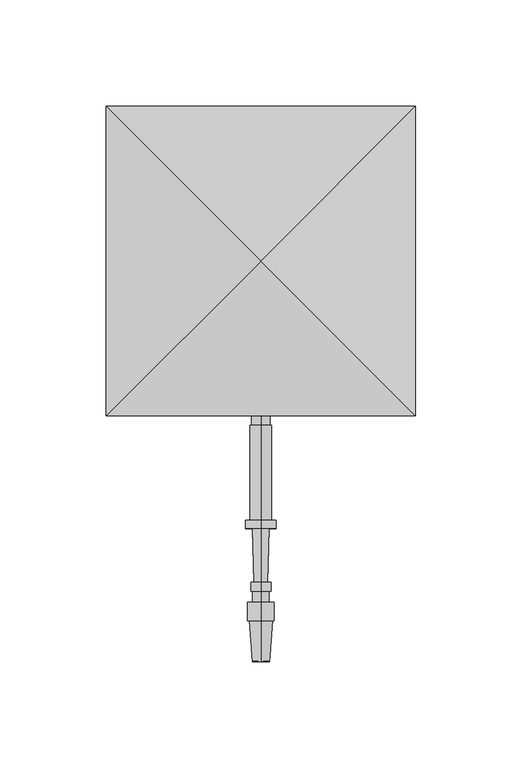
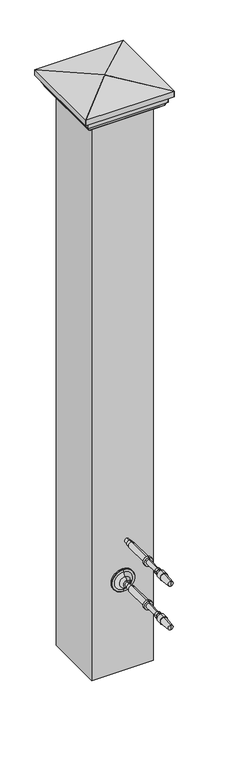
"""IFC4 building model written with IfcOpenShell, lengths in millimetres: railing geometry, RAILEASY CABLE RAILING CORNER TENSIONERS STAIR."""

from ifc_helpers import new_model, si_unit, point, frame, origin, place, context, project, spatial, polyline, circle_curve, ellipse_curve, trimmed, outline, extrude, source, transform, mapped, element, save
from ifc_brep_helpers import plane_surface, cylinder_surface, revolved_surface, advanced_brep


def railing_0d87ca35(model_context):
    return source(origin(), model_context, "Body", "SolidModel", [
        advanced_brep(
        [(4097.4568095, 20251.1146682, 32759.0282881), (4097.4568095, 20251.1146682, 32766.1720381), (4097.4568095, 20251.1146682, 32762.6001631), (4097.4568095, 20126.170779, 32762.6001631), (4097.4568095, 20125.8751146, 32766.6246235), (4097.4568095, 20125.8751146, 32758.5757028), (4097.4568095, 20145.2184786, 32768.045719), (4097.4568095, 20145.2184786, 32757.1546072), (4097.4568095, 20145.2184786, 32768.9386877), (4097.4568095, 20145.2184786, 32756.2616385), (4097.4568095, 20153.8505098, 32768.9386877), (4097.4568095, 20153.8505098, 32756.2616385), (4097.4568095, 20153.8505098, 32766.5574377), (4097.4568095, 20153.8505098, 32758.6428885), (4097.4568095, 20159.2083223, 32766.5574377), (4097.4568095, 20159.2083223, 32758.6428885), (4097.4568095, 20159.2083223, 32767.3511877), (4097.4568095, 20159.2083223, 32757.8491385), (4097.4568095, 20163.2762911, 32767.3511877), (4097.4568095, 20163.2762911, 32757.8491385), (4097.4568095, 20163.3203782, 32765.7643), (4097.4568095, 20163.3203782, 32759.4360262), (4097.4568095, 20188.7105814, 32766.4696944), (4097.4568095, 20188.7105814, 32758.7306319), (4097.4568095, 20188.7105814, 32769.7439131), (4097.4568095, 20188.7105814, 32755.4564131), (4097.4568095, 20192.6793314, 32769.7439131), (4097.4568095, 20192.6793314, 32755.4564131), (4097.4568095, 20192.6793314, 32767.7595381), (4097.4568095, 20192.6793314, 32757.4407881), (4097.4568095, 20237.4269877, 32767.7595381), (4097.4568095, 20237.4269877, 32757.4407881), (4097.4568095, 20237.4269877, 32766.9657881), (4097.4568095, 20237.4269877, 32758.2345381), (4097.4568095, 20243.7769877, 32766.9657881), (4097.4568095, 20243.7769877, 32758.2345381), (4097.4568095, 20243.7769877, 32766.1720381), (4097.4568095, 20243.7769877, 32759.0282881)],
        [
            (0, 1, circle_curve(frame((4097.4568095, 20251.1146682, 32762.6001631), z_axis=(0.0, 1.0, 0.0), x_axis=(0.0, 0.0, 1.0000000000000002)), 3.571875)),
            (1, 2),
            (2, 0),
            (1, 0, circle_curve(frame((4097.4568095, 20251.1146682, 32762.6001631), z_axis=(0.0, 1.0, 0.0), x_axis=(0.0, 0.0, 1.0000000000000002)), 3.571875)),
            (3, 4),
            (4, 5, circle_curve(frame((4097.4568095, 20125.8751146, 32762.6001631), z_axis=(0.0, -1.0, 0.0), x_axis=(0.0, 0.0, 1.0000000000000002)), 4.0244604)),
            (5, 3),
            (5, 4, circle_curve(frame((4097.4568095, 20125.8751146, 32762.6001631), z_axis=(0.0, -1.0, 0.0), x_axis=(0.0, 0.0, 1.0000000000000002)), 4.0244604)),
            (4, 6),
            (6, 7, circle_curve(frame((4097.4568095, 20145.2184786, 32762.6001631), z_axis=(0.0, -1.0, 0.0), x_axis=(0.0, 0.0, 1.0000000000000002)), 5.4455559)),
            (7, 5),
            (7, 6, circle_curve(frame((4097.4568095, 20145.2184786, 32762.6001631), z_axis=(0.0, -1.0, 0.0), x_axis=(0.0, 0.0, 1.0000000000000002)), 5.4455559)),
            (6, 8),
            (8, 9, circle_curve(frame((4097.4568095, 20145.2184786, 32762.6001631), z_axis=(0.0, -1.0, 0.0), x_axis=(0.0, 0.0, 1.0000000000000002)), 6.3385246)),
            (9, 7),
            (9, 8, circle_curve(frame((4097.4568095, 20145.2184786, 32762.6001631), z_axis=(0.0, -1.0, 0.0), x_axis=(0.0, 0.0, 1.0000000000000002)), 6.3385246)),
            (8, 10),
            (10, 11, circle_curve(frame((4097.4568095, 20153.8505098, 32762.6001631), z_axis=(0.0, -1.0, 0.0), x_axis=(0.0, 0.0, 1.0000000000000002)), 6.3385246)),
            (11, 9),
            (11, 10, circle_curve(frame((4097.4568095, 20153.8505098, 32762.6001631), z_axis=(0.0, -1.0, 0.0), x_axis=(0.0, 0.0, 1.0000000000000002)), 6.3385246)),
            (10, 12),
            (12, 13, circle_curve(frame((4097.4568095, 20153.8505098, 32762.6001631), z_axis=(0.0, -1.0, 0.0), x_axis=(0.0, 0.0, 1.0000000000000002)), 3.9572746)),
            (13, 11),
            (13, 12, circle_curve(frame((4097.4568095, 20153.8505098, 32762.6001631), z_axis=(0.0, -1.0, 0.0), x_axis=(0.0, 0.0, 1.0000000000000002)), 3.9572746)),
            (12, 14),
            (14, 15, circle_curve(frame((4097.4568095, 20159.2083223, 32762.6001631), z_axis=(0.0, -1.0, 0.0), x_axis=(0.0, 0.0, 1.0000000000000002)), 3.9572746)),
            (15, 13),
            (15, 14, circle_curve(frame((4097.4568095, 20159.2083223, 32762.6001631), z_axis=(0.0, -1.0, 0.0), x_axis=(0.0, 0.0, 1.0000000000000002)), 3.9572746)),
            (14, 16),
            (16, 17, circle_curve(frame((4097.4568095, 20159.2083223, 32762.6001631), z_axis=(0.0, -1.0, 0.0), x_axis=(0.0, 0.0, 1.0000000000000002)), 4.7510246)),
            (17, 15),
            (17, 16, circle_curve(frame((4097.4568095, 20159.2083223, 32762.6001631), z_axis=(0.0, -1.0, 0.0), x_axis=(0.0, 0.0, 1.0000000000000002)), 4.7510246)),
            (16, 18),
            (18, 19, circle_curve(frame((4097.4568095, 20163.2762911, 32762.6001631), z_axis=(0.0, -1.0, 0.0), x_axis=(0.0, 0.0, 1.0000000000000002)), 4.7510246)),
            (19, 17),
            (19, 18, circle_curve(frame((4097.4568095, 20163.2762911, 32762.6001631), z_axis=(0.0, -1.0, 0.0), x_axis=(0.0, 0.0, 1.0000000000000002)), 4.7510246)),
            (18, 20),
            (20, 21, circle_curve(frame((4097.4568095, 20163.3203782, 32762.6001631), z_axis=(0.0, -1.0, 0.0), x_axis=(0.0, 0.0, 1.0000000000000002)), 3.1641369)),
            (21, 19),
            (21, 20, circle_curve(frame((4097.4568095, 20163.3203782, 32762.6001631), z_axis=(0.0, -1.0, 0.0), x_axis=(0.0, 0.0, 1.0000000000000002)), 3.1641369)),
            (20, 22),
            (22, 23, circle_curve(frame((4097.4568095, 20188.7105814, 32762.6001631), z_axis=(0.0, -1.0, 0.0), x_axis=(0.0, 0.0, 1.0000000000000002)), 3.8695313)),
            (23, 21),
            (23, 22, circle_curve(frame((4097.4568095, 20188.7105814, 32762.6001631), z_axis=(0.0, -1.0, 0.0), x_axis=(0.0, 0.0, 1.0000000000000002)), 3.8695313)),
            (22, 24),
            (24, 25, circle_curve(frame((4097.4568095, 20188.7105814, 32762.6001631), z_axis=(0.0, -1.0, 0.0), x_axis=(0.0, 0.0, 1.0000000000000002)), 7.14375)),
            (25, 23),
            (25, 24, circle_curve(frame((4097.4568095, 20188.7105814, 32762.6001631), z_axis=(0.0, -1.0, 0.0), x_axis=(0.0, 0.0, 1.0000000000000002)), 7.14375)),
            (24, 26),
            (26, 27, circle_curve(frame((4097.4568095, 20192.6793314, 32762.6001631), z_axis=(0.0, -1.0, 0.0), x_axis=(0.0, 0.0, 1.0000000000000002)), 7.14375)),
            (27, 25),
            (27, 26, circle_curve(frame((4097.4568095, 20192.6793314, 32762.6001631), z_axis=(0.0, -1.0, 0.0), x_axis=(0.0, 0.0, 1.0000000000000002)), 7.14375)),
            (26, 28),
            (28, 29, circle_curve(frame((4097.4568095, 20192.6793314, 32762.6001631), z_axis=(0.0, -1.0, 0.0), x_axis=(0.0, 0.0, 1.0000000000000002)), 5.159375)),
            (29, 27),
            (29, 28, circle_curve(frame((4097.4568095, 20192.6793314, 32762.6001631), z_axis=(0.0, -1.0, 0.0), x_axis=(0.0, 0.0, 1.0000000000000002)), 5.159375)),
            (28, 30),
            (30, 31, circle_curve(frame((4097.4568095, 20237.4269877, 32762.6001631), z_axis=(0.0, -1.0, 0.0), x_axis=(0.0, 0.0, 1.0000000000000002)), 5.159375)),
            (31, 29),
            (31, 30, circle_curve(frame((4097.4568095, 20237.4269877, 32762.6001631), z_axis=(0.0, -1.0, 0.0), x_axis=(0.0, 0.0, 1.0000000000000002)), 5.159375)),
            (30, 32),
            (32, 33, circle_curve(frame((4097.4568095, 20237.4269877, 32762.6001631), z_axis=(0.0, -1.0, 0.0), x_axis=(0.0, 0.0, 1.0000000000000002)), 4.365625)),
            (33, 31),
            (33, 32, circle_curve(frame((4097.4568095, 20237.4269877, 32762.6001631), z_axis=(0.0, -1.0, 0.0), x_axis=(0.0, 0.0, 1.0000000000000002)), 4.365625)),
            (32, 34),
            (34, 35, circle_curve(frame((4097.4568095, 20243.7769877, 32762.6001631), z_axis=(0.0, -1.0, 0.0), x_axis=(0.0, 0.0, 1.0000000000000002)), 4.365625)),
            (35, 33),
            (35, 34, circle_curve(frame((4097.4568095, 20243.7769877, 32762.6001631), z_axis=(0.0, -1.0, 0.0), x_axis=(0.0, 0.0, 1.0000000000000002)), 4.365625)),
            (34, 36),
            (36, 37, circle_curve(frame((4097.4568095, 20243.7769877, 32762.6001631), z_axis=(0.0, -1.0, 0.0), x_axis=(0.0, 0.0, 1.0000000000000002)), 3.571875)),
            (37, 35),
            (37, 36, circle_curve(frame((4097.4568095, 20243.7769877, 32762.6001631), z_axis=(0.0, -1.0, 0.0), x_axis=(0.0, 0.0, 1.0000000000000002)), 3.571875)),
            (36, 1),
            (0, 37),
        ],
        [
            plane_surface(frame((4097.4568095, 20251.1146682, 32762.6001631), z_axis=(0.0, 1.0, 0.0), x_axis=(0.0, 0.0, 1.0))),
            revolved_surface(polyline([(4097.4568095, 20125.8751146, 32766.6246235), (4097.4568095, 20126.170779, 32762.6001631)]), (4097.4568095, 20126.170779, 32762.6001631), (0.0, -1.0, 0.0)),
            revolved_surface(polyline([(4097.4568095, 20145.2184786, 32768.045719), (4097.4568095, 20125.8751146, 32766.6246235)]), (4097.4568095, 20126.170779, 32762.6001631), (0.0, -1.0, 0.0)),
            plane_surface(frame((4097.4568095, 20145.2184786, 32762.6001631), z_axis=(0.0, -1.0, 0.0), x_axis=(0.0, 0.0, 1.0))),
            cylinder_surface(frame((4097.4568095, 20126.170779, 32762.6001631), z_axis=(0.0, -1.0, 0.0), x_axis=(0.0, 0.0, 1.0000000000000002)), 6.3385246),
            plane_surface(frame((4097.4568095, 20153.8505098, 32762.6001631), z_axis=(0.0, 1.0, 0.0), x_axis=(0.0, 0.0, 1.0))),
            cylinder_surface(frame((4097.4568095, 20126.170779, 32762.6001631), z_axis=(0.0, -1.0, 0.0), x_axis=(0.0, 0.0, 1.0000000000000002)), 3.9572746),
            plane_surface(frame((4097.4568095, 20159.2083223, 32762.6001631), z_axis=(0.0, -1.0, 0.0), x_axis=(0.0, 0.0, 1.0))),
            cylinder_surface(frame((4097.4568095, 20126.170779, 32762.6001631), z_axis=(0.0, -1.0, 0.0), x_axis=(0.0, 0.0, 1.0000000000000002)), 4.7510246),
            plane_surface(frame((4097.4568095, 20163.3203782, 32762.6001631), z_axis=(0.0, 1.0, 0.0), x_axis=(0.0, 0.0, 1.0))),
            revolved_surface(polyline([(4097.4568095, 20188.7105814, 32766.4696944), (4097.4568095, 20163.3203782, 32765.7643)]), (4097.4568095, 20126.170779, 32762.6001631), (0.0, -1.0, 0.0)),
            plane_surface(frame((4097.4568095, 20188.7105814, 32762.6001631), z_axis=(0.0, -1.0, 0.0), x_axis=(0.0, 0.0, 1.0))),
            cylinder_surface(frame((4097.4568095, 20126.170779, 32762.6001631), z_axis=(0.0, -1.0, 0.0), x_axis=(0.0, 0.0, 1.0000000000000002)), 7.14375),
            plane_surface(frame((4097.4568095, 20192.6793314, 32762.6001631), z_axis=(0.0, 1.0, 0.0), x_axis=(0.0, 0.0, 1.0))),
            cylinder_surface(frame((4097.4568095, 20126.170779, 32762.6001631), z_axis=(0.0, -1.0, 0.0), x_axis=(0.0, 0.0, 1.0000000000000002)), 5.159375),
            plane_surface(frame((4097.4568095, 20237.4269877, 32762.6001631), z_axis=(0.0, 1.0, 0.0), x_axis=(0.0, 0.0, 1.0))),
            cylinder_surface(frame((4097.4568095, 20126.170779, 32762.6001631), z_axis=(0.0, -1.0, 0.0), x_axis=(0.0, 0.0, 1.0000000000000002)), 4.365625),
            plane_surface(frame((4097.4568095, 20243.7769877, 32762.6001631), z_axis=(0.0, 1.0, 0.0), x_axis=(0.0, 0.0, 1.0))),
            cylinder_surface(frame((4097.4568095, 20126.170779, 32762.6001631), z_axis=(0.0, -1.0, 0.0), x_axis=(0.0, 0.0, 1.0000000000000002)), 3.571875),
        ],
        [
            (0, [[1, 2, 3]]),
            (0, [[4, -3, -2]]),
            (1, [[5, 6, 7]]),
            (1, [[-7, 8, -5]]),
            (2, [[-6, 9, 10, 11]]),
            (2, [[-8, -11, 12, -9]]),
            (3, [[-10, 13, 14, 15]]),
            (3, [[-12, -15, 16, -13]]),
            (4, [[-14, 17, 18, 19]]),
            (4, [[-16, -19, 20, -17]]),
            (5, [[-18, 21, 22, 23]]),
            (5, [[-20, -23, 24, -21]]),
            (6, [[-22, 25, 26, 27]]),
            (6, [[-24, -27, 28, -25]]),
            (7, [[-26, 29, 30, 31]]),
            (7, [[-28, -31, 32, -29]]),
            (8, [[-30, 33, 34, 35]]),
            (8, [[-32, -35, 36, -33]]),
            (9, [[-34, 37, 38, 39]]),
            (9, [[-36, -39, 40, -37]]),
            (10, [[-38, 41, 42, 43]]),
            (10, [[-40, -43, 44, -41]]),
            (11, [[-42, 45, 46, 47]]),
            (11, [[-44, -47, 48, -45]]),
            (12, [[-46, 49, 50, 51]]),
            (12, [[-48, -51, 52, -49]]),
            (13, [[-50, 53, 54, 55]]),
            (13, [[-52, -55, 56, -53]]),
            (14, [[-54, 57, 58, 59]]),
            (14, [[-56, -59, 60, -57]]),
            (15, [[-58, 61, 62, 63]]),
            (15, [[-60, -63, 64, -61]]),
            (16, [[-62, 65, 66, 67]]),
            (16, [[-64, -67, 68, -65]]),
            (17, [[-66, 69, 70, 71]]),
            (17, [[-68, -71, 72, -69]]),
            (18, [[-70, 73, -1, 74]]),
            (18, [[-72, -74, -4, -73]]),
        ],
    ),
        advanced_brep(
        [(4097.4568095, 20263.8073048, 32686.4001631), (4097.4568095, 20263.8073048, 32667.3501631), (4097.4568095, 20263.8073048, 32705.4501631), (4097.4568095, 20251.1146682, 32680.8769785), (4097.4568095, 20251.1146682, 32686.4001631), (4097.4568095, 20251.1146682, 32691.9233478), (4097.4568095, 20256.3907646, 32677.2720381), (4097.4568095, 20256.3907646, 32695.5282881), (4097.4568095, 20260.7563896, 32671.6458254), (4097.4568095, 20260.7563896, 32701.1545009), (4097.4568095, 20260.7563896, 32667.7762941), (4097.4568095, 20260.7563896, 32705.0240321), (4097.4568095, 20261.4260548, 32667.3501631), (4097.4568095, 20261.4260548, 32705.4501631)],
        [
            (0, 1),
            (1, 2, circle_curve(frame((4097.4568095, 20263.8073048, 32686.4001631), z_axis=(0.0, 1.0, 0.0), x_axis=(0.0, 0.0, 1.0)), 19.05)),
            (2, 0),
            (2, 1, circle_curve(frame((4097.4568095, 20263.8073048, 32686.4001631), z_axis=(0.0, 1.0, 0.0), x_axis=(0.0, 0.0, 1.0)), 19.05)),
            (3, 4),
            (4, 5),
            (5, 3, circle_curve(frame((4097.4568095, 20251.1146682, 32686.4001631), z_axis=(0.0, -1.0, 0.0), x_axis=(0.0, 0.0, 1.0)), 5.5231846)),
            (3, 5, circle_curve(frame((4097.4568095, 20251.1146682, 32686.4001631), z_axis=(0.0, -1.0, 0.0), x_axis=(0.0, 0.0, 1.0)), 5.5231846)),
            (6, 3, circle_curve(frame((4097.4568095, 20258.7151733, 32686.3374304), z_axis=(-1.0, 0.0, 0.0), x_axis=(0.0, -1.0, 0.0)), 9.3586438)),
            (5, 7, circle_curve(frame((4097.4568095, 20258.7151733, 32686.4628958), z_axis=(-1.0, 0.0, 0.0), x_axis=(0.0, -1.0, 0.0)), 9.3586438)),
            (7, 6, circle_curve(frame((4097.4568095, 20256.3907646, 32686.4001631), z_axis=(0.0, -1.0, 0.0), x_axis=(0.0, 0.0, 1.0)), 9.128125)),
            (6, 7, circle_curve(frame((4097.4568095, 20256.3907646, 32686.4001631), z_axis=(0.0, -1.0, 0.0), x_axis=(0.0, 0.0, 1.0)), 9.128125)),
            (8, 6, circle_curve(frame((4097.4568095, 20254.9481776, 32671.6458254), z_axis=(1.0, 0.0, 0.0), x_axis=(0.0, -1.0, 0.0)), 5.8082121)),
            (7, 9, circle_curve(frame((4097.4568095, 20254.9481776, 32701.1545009), z_axis=(1.0, 0.0, 0.0), x_axis=(0.0, -1.0, 0.0)), 5.8082121)),
            (9, 8, circle_curve(frame((4097.4568095, 20260.7563896, 32686.4001631), z_axis=(0.0, -1.0, 0.0), x_axis=(0.0, 0.0, 1.0)), 14.7543378)),
            (8, 9, circle_curve(frame((4097.4568095, 20260.7563896, 32686.4001631), z_axis=(0.0, -1.0, 0.0), x_axis=(0.0, 0.0, 1.0)), 14.7543378)),
            (10, 8),
            (9, 11),
            (11, 10, circle_curve(frame((4097.4568095, 20260.7563896, 32686.4001631), z_axis=(0.0, -1.0, 0.0), x_axis=(0.0, 0.0, 1.0)), 18.623869)),
            (10, 11, circle_curve(frame((4097.4568095, 20260.7563896, 32686.4001631), z_axis=(0.0, -1.0, 0.0), x_axis=(0.0, 0.0, 1.0)), 18.623869)),
            (12, 10),
            (11, 13),
            (13, 12, circle_curve(frame((4097.4568095, 20261.4260548, 32686.4001631), z_axis=(0.0, -1.0, 0.0), x_axis=(0.0, 0.0, 1.0)), 19.05)),
            (12, 13, circle_curve(frame((4097.4568095, 20261.4260548, 32686.4001631), z_axis=(0.0, -1.0, 0.0), x_axis=(0.0, 0.0, 1.0)), 19.05)),
            (1, 12),
            (13, 2),
        ],
        [
            plane_surface(frame((4097.4568095, 20263.8073048, 32686.4001631), z_axis=(0.0, 1.0, 0.0), x_axis=(0.0, 0.0, 1.0))),
            plane_surface(frame((4097.4568095, 20251.1146682, 32686.4001631), z_axis=(0.0, -1.0, 0.0), x_axis=(0.0, 0.0, 1.0))),
            revolved_surface(trimmed(ellipse_curve(frame((4097.4568095, 20258.7151733, 32686.4628958), z_axis=(-1.0, 0.0, 0.0), x_axis=(0.0, -1.0, 0.0)), 9.3586438, 9.3586438), [point((4097.4568095, 20251.1146682, 32691.9233478))], [point((4097.4568095, 20256.3907646, 32695.5282881))], True, "CARTESIAN"), (4097.4568095, 20263.8073048, 32686.4001631), (0.0, 1.0, 0.0)),
            revolved_surface(trimmed(ellipse_curve(frame((4097.4568095, 20254.9481776, 32701.1545009), z_axis=(1.0, 0.0, 0.0), x_axis=(0.0, -1.0, 0.0)), 5.8082121, 5.8082121), [point((4097.4568095, 20256.3907646, 32695.5282881))], [point((4097.4568095, 20260.7563896, 32701.1545009))], True, "CARTESIAN"), (4097.4568095, 20263.8073048, 32686.4001631), (0.0, 1.0, 0.0)),
            plane_surface(frame((4097.4568095, 20260.7563896, 32686.4001631), z_axis=(0.0, -1.0, 0.0), x_axis=(0.0, 0.0, 1.0))),
            revolved_surface(polyline([(4097.4568095, 20260.7563896, 32705.0240321), (4097.4568095, 20261.4260548, 32705.4501631)]), (4097.4568095, 20263.8073048, 32686.4001631), (0.0, 1.0, 0.0)),
            cylinder_surface(frame((4097.4568095, 20263.8073048, 32686.4001631), z_axis=(0.0, 1.0, 0.0), x_axis=(0.0, 0.0, 1.0)), 19.05),
        ],
        [
            (0, [[1, 2, 3]]),
            (0, [[-3, 4, -1]]),
            (1, [[5, 6, 7]]),
            (1, [[-6, -5, 8]]),
            (2, [[9, -7, 10, 11]]),
            (2, [[-10, -8, -9, 12]]),
            (3, [[13, -11, 14, 15]]),
            (3, [[-14, -12, -13, 16]]),
            (4, [[17, -15, 18, 19]]),
            (4, [[-18, -16, -17, 20]]),
            (5, [[21, -19, 22, 23]]),
            (5, [[-22, -20, -21, 24]]),
            (6, [[25, -23, 26, -2]]),
            (6, [[-26, -24, -25, -4]]),
        ],
    ),
        advanced_brep(
        [(4097.4568095, 20251.1146682, 32682.8282881), (4097.4568095, 20251.1146682, 32689.9720381), (4097.4568095, 20251.1146682, 32686.4001631), (4097.4568095, 20126.170779, 32686.4001631), (4097.4568095, 20125.8751146, 32690.4246235), (4097.4568095, 20125.8751146, 32682.3757028), (4097.4568095, 20145.2184786, 32691.845719), (4097.4568095, 20145.2184786, 32680.9546072), (4097.4568095, 20145.2184786, 32692.7386877), (4097.4568095, 20145.2184786, 32680.0616385), (4097.4568095, 20153.8505098, 32692.7386877), (4097.4568095, 20153.8505098, 32680.0616385), (4097.4568095, 20153.8505098, 32690.3574377), (4097.4568095, 20153.8505098, 32682.4428885), (4097.4568095, 20159.2083223, 32690.3574377), (4097.4568095, 20159.2083223, 32682.4428885), (4097.4568095, 20159.2083223, 32691.1511877), (4097.4568095, 20159.2083223, 32681.6491385), (4097.4568095, 20163.2762911, 32691.1511877), (4097.4568095, 20163.2762911, 32681.6491385), (4097.4568095, 20163.3203782, 32689.5643), (4097.4568095, 20163.3203782, 32683.2360262), (4097.4568095, 20188.7105814, 32690.2696944), (4097.4568095, 20188.7105814, 32682.5306319), (4097.4568095, 20188.7105814, 32693.5439131), (4097.4568095, 20188.7105814, 32679.2564131), (4097.4568095, 20192.6793314, 32693.5439131), (4097.4568095, 20192.6793314, 32679.2564131), (4097.4568095, 20192.6793314, 32691.5595381), (4097.4568095, 20192.6793314, 32681.2407881), (4097.4568095, 20237.4269877, 32691.5595381), (4097.4568095, 20237.4269877, 32681.2407881), (4097.4568095, 20237.4269877, 32690.7657881), (4097.4568095, 20237.4269877, 32682.0345381), (4097.4568095, 20243.7769877, 32690.7657881), (4097.4568095, 20243.7769877, 32682.0345381), (4097.4568095, 20243.7769877, 32689.9720381), (4097.4568095, 20243.7769877, 32682.8282881)],
        [
            (0, 1, circle_curve(frame((4097.4568095, 20251.1146682, 32686.4001631), z_axis=(0.0, 1.0, 0.0), x_axis=(0.0, 0.0, 1.0000000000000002)), 3.571875)),
            (1, 2),
            (2, 0),
            (1, 0, circle_curve(frame((4097.4568095, 20251.1146682, 32686.4001631), z_axis=(0.0, 1.0, 0.0), x_axis=(0.0, 0.0, 1.0000000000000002)), 3.571875)),
            (3, 4),
            (4, 5, circle_curve(frame((4097.4568095, 20125.8751146, 32686.4001631), z_axis=(0.0, -1.0, 0.0), x_axis=(0.0, 0.0, 1.0000000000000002)), 4.0244604)),
            (5, 3),
            (5, 4, circle_curve(frame((4097.4568095, 20125.8751146, 32686.4001631), z_axis=(0.0, -1.0, 0.0), x_axis=(0.0, 0.0, 1.0000000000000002)), 4.0244604)),
            (4, 6),
            (6, 7, circle_curve(frame((4097.4568095, 20145.2184786, 32686.4001631), z_axis=(0.0, -1.0, 0.0), x_axis=(0.0, 0.0, 1.0000000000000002)), 5.4455559)),
            (7, 5),
            (7, 6, circle_curve(frame((4097.4568095, 20145.2184786, 32686.4001631), z_axis=(0.0, -1.0, 0.0), x_axis=(0.0, 0.0, 1.0000000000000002)), 5.4455559)),
            (6, 8),
            (8, 9, circle_curve(frame((4097.4568095, 20145.2184786, 32686.4001631), z_axis=(0.0, -1.0, 0.0), x_axis=(0.0, 0.0, 1.0000000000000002)), 6.3385246)),
            (9, 7),
            (9, 8, circle_curve(frame((4097.4568095, 20145.2184786, 32686.4001631), z_axis=(0.0, -1.0, 0.0), x_axis=(0.0, 0.0, 1.0000000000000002)), 6.3385246)),
            (8, 10),
            (10, 11, circle_curve(frame((4097.4568095, 20153.8505098, 32686.4001631), z_axis=(0.0, -1.0, 0.0), x_axis=(0.0, 0.0, 1.0000000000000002)), 6.3385246)),
            (11, 9),
            (11, 10, circle_curve(frame((4097.4568095, 20153.8505098, 32686.4001631), z_axis=(0.0, -1.0, 0.0), x_axis=(0.0, 0.0, 1.0000000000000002)), 6.3385246)),
            (10, 12),
            (12, 13, circle_curve(frame((4097.4568095, 20153.8505098, 32686.4001631), z_axis=(0.0, -1.0, 0.0), x_axis=(0.0, 0.0, 1.0000000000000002)), 3.9572746)),
            (13, 11),
            (13, 12, circle_curve(frame((4097.4568095, 20153.8505098, 32686.4001631), z_axis=(0.0, -1.0, 0.0), x_axis=(0.0, 0.0, 1.0000000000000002)), 3.9572746)),
            (12, 14),
            (14, 15, circle_curve(frame((4097.4568095, 20159.2083223, 32686.4001631), z_axis=(0.0, -1.0, 0.0), x_axis=(0.0, 0.0, 1.0000000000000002)), 3.9572746)),
            (15, 13),
            (15, 14, circle_curve(frame((4097.4568095, 20159.2083223, 32686.4001631), z_axis=(0.0, -1.0, 0.0), x_axis=(0.0, 0.0, 1.0000000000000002)), 3.9572746)),
            (14, 16),
            (16, 17, circle_curve(frame((4097.4568095, 20159.2083223, 32686.4001631), z_axis=(0.0, -1.0, 0.0), x_axis=(0.0, 0.0, 1.0000000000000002)), 4.7510246)),
            (17, 15),
            (17, 16, circle_curve(frame((4097.4568095, 20159.2083223, 32686.4001631), z_axis=(0.0, -1.0, 0.0), x_axis=(0.0, 0.0, 1.0000000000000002)), 4.7510246)),
            (16, 18),
            (18, 19, circle_curve(frame((4097.4568095, 20163.2762911, 32686.4001631), z_axis=(0.0, -1.0, 0.0), x_axis=(0.0, 0.0, 1.0000000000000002)), 4.7510246)),
            (19, 17),
            (19, 18, circle_curve(frame((4097.4568095, 20163.2762911, 32686.4001631), z_axis=(0.0, -1.0, 0.0), x_axis=(0.0, 0.0, 1.0000000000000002)), 4.7510246)),
            (18, 20),
            (20, 21, circle_curve(frame((4097.4568095, 20163.3203782, 32686.4001631), z_axis=(0.0, -1.0, 0.0), x_axis=(0.0, 0.0, 1.0000000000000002)), 3.1641369)),
            (21, 19),
            (21, 20, circle_curve(frame((4097.4568095, 20163.3203782, 32686.4001631), z_axis=(0.0, -1.0, 0.0), x_axis=(0.0, 0.0, 1.0000000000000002)), 3.1641369)),
            (20, 22),
            (22, 23, circle_curve(frame((4097.4568095, 20188.7105814, 32686.4001631), z_axis=(0.0, -1.0, 0.0), x_axis=(0.0, 0.0, 1.0000000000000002)), 3.8695313)),
            (23, 21),
            (23, 22, circle_curve(frame((4097.4568095, 20188.7105814, 32686.4001631), z_axis=(0.0, -1.0, 0.0), x_axis=(0.0, 0.0, 1.0000000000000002)), 3.8695313)),
            (22, 24),
            (24, 25, circle_curve(frame((4097.4568095, 20188.7105814, 32686.4001631), z_axis=(0.0, -1.0, 0.0), x_axis=(0.0, 0.0, 1.0000000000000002)), 7.14375)),
            (25, 23),
            (25, 24, circle_curve(frame((4097.4568095, 20188.7105814, 32686.4001631), z_axis=(0.0, -1.0, 0.0), x_axis=(0.0, 0.0, 1.0000000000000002)), 7.14375)),
            (24, 26),
            (26, 27, circle_curve(frame((4097.4568095, 20192.6793314, 32686.4001631), z_axis=(0.0, -1.0, 0.0), x_axis=(0.0, 0.0, 1.0000000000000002)), 7.14375)),
            (27, 25),
            (27, 26, circle_curve(frame((4097.4568095, 20192.6793314, 32686.4001631), z_axis=(0.0, -1.0, 0.0), x_axis=(0.0, 0.0, 1.0000000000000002)), 7.14375)),
            (26, 28),
            (28, 29, circle_curve(frame((4097.4568095, 20192.6793314, 32686.4001631), z_axis=(0.0, -1.0, 0.0), x_axis=(0.0, 0.0, 1.0000000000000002)), 5.159375)),
            (29, 27),
            (29, 28, circle_curve(frame((4097.4568095, 20192.6793314, 32686.4001631), z_axis=(0.0, -1.0, 0.0), x_axis=(0.0, 0.0, 1.0000000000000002)), 5.159375)),
            (28, 30),
            (30, 31, circle_curve(frame((4097.4568095, 20237.4269877, 32686.4001631), z_axis=(0.0, -1.0, 0.0), x_axis=(0.0, 0.0, 1.0000000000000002)), 5.159375)),
            (31, 29),
            (31, 30, circle_curve(frame((4097.4568095, 20237.4269877, 32686.4001631), z_axis=(0.0, -1.0, 0.0), x_axis=(0.0, 0.0, 1.0000000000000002)), 5.159375)),
            (30, 32),
            (32, 33, circle_curve(frame((4097.4568095, 20237.4269877, 32686.4001631), z_axis=(0.0, -1.0, 0.0), x_axis=(0.0, 0.0, 1.0000000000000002)), 4.365625)),
            (33, 31),
            (33, 32, circle_curve(frame((4097.4568095, 20237.4269877, 32686.4001631), z_axis=(0.0, -1.0, 0.0), x_axis=(0.0, 0.0, 1.0000000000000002)), 4.365625)),
            (32, 34),
            (34, 35, circle_curve(frame((4097.4568095, 20243.7769877, 32686.4001631), z_axis=(0.0, -1.0, 0.0), x_axis=(0.0, 0.0, 1.0000000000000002)), 4.365625)),
            (35, 33),
            (35, 34, circle_curve(frame((4097.4568095, 20243.7769877, 32686.4001631), z_axis=(0.0, -1.0, 0.0), x_axis=(0.0, 0.0, 1.0000000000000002)), 4.365625)),
            (34, 36),
            (36, 37, circle_curve(frame((4097.4568095, 20243.7769877, 32686.4001631), z_axis=(0.0, -1.0, 0.0), x_axis=(0.0, 0.0, 1.0000000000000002)), 3.571875)),
            (37, 35),
            (37, 36, circle_curve(frame((4097.4568095, 20243.7769877, 32686.4001631), z_axis=(0.0, -1.0, 0.0), x_axis=(0.0, 0.0, 1.0000000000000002)), 3.571875)),
            (36, 1),
            (0, 37),
        ],
        [
            plane_surface(frame((4097.4568095, 20251.1146682, 32686.4001631), z_axis=(0.0, 1.0, 0.0), x_axis=(0.0, 0.0, 1.0))),
            revolved_surface(polyline([(4097.4568095, 20125.8751146, 32690.4246235), (4097.4568095, 20126.170779, 32686.4001631)]), (4097.4568095, 20126.170779, 32686.4001631), (0.0, -1.0, 0.0)),
            revolved_surface(polyline([(4097.4568095, 20145.2184786, 32691.845719), (4097.4568095, 20125.8751146, 32690.4246235)]), (4097.4568095, 20126.170779, 32686.4001631), (0.0, -1.0, 0.0)),
            plane_surface(frame((4097.4568095, 20145.2184786, 32686.4001631), z_axis=(0.0, -1.0, 0.0), x_axis=(0.0, 0.0, 1.0))),
            cylinder_surface(frame((4097.4568095, 20126.170779, 32686.4001631), z_axis=(0.0, -1.0, 0.0), x_axis=(0.0, 0.0, 1.0000000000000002)), 6.3385246),
            plane_surface(frame((4097.4568095, 20153.8505098, 32686.4001631), z_axis=(0.0, 1.0, 0.0), x_axis=(0.0, 0.0, 1.0))),
            cylinder_surface(frame((4097.4568095, 20126.170779, 32686.4001631), z_axis=(0.0, -1.0, 0.0), x_axis=(0.0, 0.0, 1.0000000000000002)), 3.9572746),
            plane_surface(frame((4097.4568095, 20159.2083223, 32686.4001631), z_axis=(0.0, -1.0, 0.0), x_axis=(0.0, 0.0, 1.0))),
            cylinder_surface(frame((4097.4568095, 20126.170779, 32686.4001631), z_axis=(0.0, -1.0, 0.0), x_axis=(0.0, 0.0, 1.0000000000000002)), 4.7510246),
            plane_surface(frame((4097.4568095, 20163.3203782, 32686.4001631), z_axis=(0.0, 1.0, 0.0), x_axis=(0.0, 0.0, 1.0))),
            revolved_surface(polyline([(4097.4568095, 20188.7105814, 32690.2696944), (4097.4568095, 20163.3203782, 32689.5643)]), (4097.4568095, 20126.170779, 32686.4001631), (0.0, -1.0, 0.0)),
            plane_surface(frame((4097.4568095, 20188.7105814, 32686.4001631), z_axis=(0.0, -1.0, 0.0), x_axis=(0.0, 0.0, 1.0))),
            cylinder_surface(frame((4097.4568095, 20126.170779, 32686.4001631), z_axis=(0.0, -1.0, 0.0), x_axis=(0.0, 0.0, 1.0000000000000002)), 7.14375),
            plane_surface(frame((4097.4568095, 20192.6793314, 32686.4001631), z_axis=(0.0, 1.0, 0.0), x_axis=(0.0, 0.0, 1.0))),
            cylinder_surface(frame((4097.4568095, 20126.170779, 32686.4001631), z_axis=(0.0, -1.0, 0.0), x_axis=(0.0, 0.0, 1.0000000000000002)), 5.159375),
            plane_surface(frame((4097.4568095, 20237.4269877, 32686.4001631), z_axis=(0.0, 1.0, 0.0), x_axis=(0.0, 0.0, 1.0))),
            cylinder_surface(frame((4097.4568095, 20126.170779, 32686.4001631), z_axis=(0.0, -1.0, 0.0), x_axis=(0.0, 0.0, 1.0000000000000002)), 4.365625),
            plane_surface(frame((4097.4568095, 20243.7769877, 32686.4001631), z_axis=(0.0, 1.0, 0.0), x_axis=(0.0, 0.0, 1.0))),
            cylinder_surface(frame((4097.4568095, 20126.170779, 32686.4001631), z_axis=(0.0, -1.0, 0.0), x_axis=(0.0, 0.0, 1.0000000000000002)), 3.571875),
        ],
        [
            (0, [[1, 2, 3]]),
            (0, [[4, -3, -2]]),
            (1, [[5, 6, 7]]),
            (1, [[-7, 8, -5]]),
            (2, [[-6, 9, 10, 11]]),
            (2, [[-8, -11, 12, -9]]),
            (3, [[-10, 13, 14, 15]]),
            (3, [[-12, -15, 16, -13]]),
            (4, [[-14, 17, 18, 19]]),
            (4, [[-16, -19, 20, -17]]),
            (5, [[-18, 21, 22, 23]]),
            (5, [[-20, -23, 24, -21]]),
            (6, [[-22, 25, 26, 27]]),
            (6, [[-24, -27, 28, -25]]),
            (7, [[-26, 29, 30, 31]]),
            (7, [[-28, -31, 32, -29]]),
            (8, [[-30, 33, 34, 35]]),
            (8, [[-32, -35, 36, -33]]),
            (9, [[-34, 37, 38, 39]]),
            (9, [[-36, -39, 40, -37]]),
            (10, [[-38, 41, 42, 43]]),
            (10, [[-40, -43, 44, -41]]),
            (11, [[-42, 45, 46, 47]]),
            (11, [[-44, -47, 48, -45]]),
            (12, [[-46, 49, 50, 51]]),
            (12, [[-48, -51, 52, -49]]),
            (13, [[-50, 53, 54, 55]]),
            (13, [[-52, -55, 56, -53]]),
            (14, [[-54, 57, 58, 59]]),
            (14, [[-56, -59, 60, -57]]),
            (15, [[-58, 61, 62, 63]]),
            (15, [[-60, -63, 64, -61]]),
            (16, [[-62, 65, 66, 67]]),
            (16, [[-64, -67, 68, -65]]),
            (17, [[-66, 69, 70, 71]]),
            (17, [[-68, -71, 72, -69]]),
            (18, [[-70, 73, -1, 74]]),
            (18, [[-72, -74, -4, -73]]),
        ],
    ),
        extrude(outline(polyline([(4046.6568095, 20365.424604), (4148.2568095, 20365.424604), (4148.2568095, 20263.824604), (4046.6568095, 20263.824604), (4046.6568095, 20365.424604)])), frame((0.0, 0.0, 32527.3789062), z_axis=(0.0, 0.0, 1.0), x_axis=(1.0, 0.0, 0.0)), (0.0, 0.0, 1.0), 965.2),
        advanced_brep(
        [(4170.4818095, 20387.649604, 33527.5039062), (4097.4568095, 20314.624604, 33537.0289063), (4170.4818095, 20241.599604, 33527.5039062), (4170.4818095, 20387.649604, 33517.9789062), (4170.4818095, 20241.599604, 33517.9789062), (4164.1318095, 20381.299604, 33517.9789062), (4164.1318095, 20247.949604, 33517.9789062), (4164.1318095, 20381.299604, 33506.8203026), (4164.1318095, 20247.949604, 33506.8203026), (4160.4607158, 20377.6285103, 33500.5164062), (4160.4607158, 20251.6206978, 33500.5164062), (4157.2857158, 20374.4535103, 33500.5164062), (4157.2857158, 20254.7956978, 33500.5164062), (4150.9357158, 20368.1035103, 33494.1664062), (4150.9357158, 20261.1456978, 33494.1664062), (4150.9357158, 20368.1035103, 33492.5789063), (4150.9357158, 20261.1456978, 33492.5789063), (4097.4568095, 20314.624604, 33492.5789063)],
        [
            (0, 1),
            (1, 2),
            (2, 0),
            (3, 0),
            (2, 4),
            (4, 3),
            (5, 3),
            (4, 6),
            (6, 5),
            (7, 5),
            (6, 8),
            (8, 7),
            (9, 7, ellipse_curve(frame((4173.1607158, 20390.3285103, 33497.3414063), z_axis=(-0.7071067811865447, 0.7071067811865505, 0.0), x_axis=(0.7071067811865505, 0.7071067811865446, 0.0)), 18.5132723, 13.0908604)),
            (8, 10, ellipse_curve(frame((4173.1607158, 20238.9206978, 33497.3414063), z_axis=(-0.7071067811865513, -0.7071067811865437, 0.0), x_axis=(-0.7071067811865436, 0.7071067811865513, 0.0)), 18.5132723, 13.0908604)),
            (10, 9),
            (11, 9),
            (10, 12),
            (12, 11),
            (13, 11, ellipse_curve(frame((4150.9357158, 20368.1035103, 33500.5164062), z_axis=(0.7071067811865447, -0.7071067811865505, 0.0), x_axis=(-0.7071067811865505, -0.7071067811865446, 0.0)), 8.9802561, 6.35)),
            (12, 14, ellipse_curve(frame((4150.9357158, 20261.1456978, 33500.5164062), z_axis=(0.7071067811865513, 0.7071067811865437, 0.0), x_axis=(0.7071067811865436, -0.7071067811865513, 0.0)), 8.9802561, 6.35)),
            (14, 13),
            (15, 13),
            (14, 16),
            (16, 15),
            (17, 15),
            (16, 17),
            (17, 1),
        ],
        [
            plane_surface(frame((4170.4818095, 20197.4228953, 33527.5039062), z_axis=(0.12933918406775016, 0.0, 0.9916004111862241), x_axis=(0.0, 1.0, 0.0))),
            plane_surface(frame((4170.4818095, 20197.4228953, 33517.9789062), z_axis=(1.0, 0.0, 0.0), x_axis=(0.0, 1.0, 0.0))),
            plane_surface(frame((4164.1318095, 20197.4228953, 33517.9789062), z_axis=(0.0, 0.0, -1.0), x_axis=(0.0, 1.0, 0.0))),
            plane_surface(frame((4164.1318095, 20197.4228953, 33506.8203026), z_axis=(1.0, 0.0, 0.0), x_axis=(0.0, 1.0, 0.0))),
            revolved_surface(polyline([(4160.0698554, 20403.419370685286, 33497.3414063), (4160.0698554, 20225.829837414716, 33497.3414063)]), (4173.1607158, 20423.9181834, 33497.3414063), (0.0, 1.0, 0.0)),
            plane_surface(frame((4157.2857158, 20197.4228953, 33500.5164062), z_axis=(0.0, 0.0, -1.0), x_axis=(0.0, 1.0, 0.0))),
            cylinder_surface(frame((4150.9357158, 20423.9181834, 33500.5164062), z_axis=(0.0, -1.0, 0.0), x_axis=(-1.0, 0.0, 0.0)), 6.35),
            plane_surface(frame((4150.9357158, 20197.4228953, 33492.5789063), z_axis=(1.0, 0.0, 0.0), x_axis=(0.0, 1.0, 0.0))),
            plane_surface(frame((4097.4568095, 20197.4228953, 33492.5789063), z_axis=(0.0, 0.0, -1.0), x_axis=(0.0, 1.0, 0.0))),
            plane_surface(frame((4097.4568095, 20314.624604, 33721.1789063), z_axis=(-0.7071067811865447, 0.7071067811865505, 0.0), x_axis=(0.0, 0.0, -1.0))),
            plane_surface(frame((4230.8068095, 20181.274604, 33721.1789063), z_axis=(-0.7071067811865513, -0.7071067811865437, 0.0), x_axis=(0.0, 0.0, -1.0))),
        ],
        [
            (0, [[1, 2, 3]]),
            (1, [[4, -3, 5, 6]]),
            (2, [[7, -6, 8, 9]]),
            (3, [[10, -9, 11, 12]]),
            (4, [[13, -12, 14, 15]]),
            (5, [[16, -15, 17, 18]]),
            (6, [[19, -18, 20, 21]]),
            (7, [[22, -21, 23, 24]]),
            (8, [[25, -24, 26]]),
            (9, [[-1, -4, -7, -10, -13, -16, -19, -22, -25, 27]]),
            (10, [[-2, -27, -26, -23, -20, -17, -14, -11, -8, -5]]),
        ],
    ),
        advanced_brep(
        [(4097.4568095, 20314.624604, 33537.0289063), (4024.4318095, 20387.649604, 33527.5039062), (4024.4318095, 20241.599604, 33527.5039062), (4024.4318095, 20387.649604, 33517.9789062), (4024.4318095, 20241.599604, 33517.9789062), (4030.7818095, 20381.299604, 33517.9789062), (4030.7818095, 20247.949604, 33517.9789062), (4030.7818095, 20381.299604, 33506.8203026), (4030.7818095, 20247.949604, 33506.8203026), (4034.4529033, 20377.6285103, 33500.5164062), (4034.4529033, 20251.6206978, 33500.5164062), (4037.6279033, 20374.4535103, 33500.5164062), (4037.6279033, 20254.7956978, 33500.5164062), (4043.9779033, 20368.1035103, 33494.1664062), (4043.9779033, 20261.1456978, 33494.1664062), (4043.9779033, 20368.1035103, 33492.5789063), (4043.9779033, 20261.1456978, 33492.5789063), (4097.4568095, 20314.624604, 33492.5789063)],
        [
            (0, 1),
            (1, 2),
            (2, 0),
            (1, 3),
            (3, 4),
            (4, 2),
            (3, 5),
            (5, 6),
            (6, 4),
            (5, 7),
            (7, 8),
            (8, 6),
            (7, 9, ellipse_curve(frame((4021.7529033, 20390.3285103, 33497.3414063), z_axis=(0.7071067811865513, 0.7071067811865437, 0.0), x_axis=(-0.7071067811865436, 0.7071067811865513, 0.0)), 18.5132723, 13.0908604)),
            (9, 10),
            (10, 8, ellipse_curve(frame((4021.7529033, 20238.9206978, 33497.3414063), z_axis=(0.7071067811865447, -0.7071067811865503, 0.0), x_axis=(0.7071067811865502, 0.7071067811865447, 0.0)), 18.5132723, 13.0908604)),
            (9, 11),
            (11, 12),
            (12, 10),
            (11, 13, ellipse_curve(frame((4043.9779033, 20368.1035103, 33500.5164062), z_axis=(-0.7071067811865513, -0.7071067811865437, 0.0), x_axis=(0.7071067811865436, -0.7071067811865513, 0.0)), 8.9802561, 6.35)),
            (13, 14),
            (14, 12, ellipse_curve(frame((4043.9779033, 20261.1456978, 33500.5164062), z_axis=(-0.7071067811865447, 0.7071067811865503, 0.0), x_axis=(-0.7071067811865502, -0.7071067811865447, 0.0)), 8.9802561, 6.35)),
            (13, 15),
            (15, 16),
            (16, 14),
            (15, 17),
            (17, 16),
            (0, 17),
        ],
        [
            plane_surface(frame((4097.4568095, 20197.4228953, 33537.0289063), z_axis=(-0.12933918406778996, 0.0, 0.9916004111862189), x_axis=(0.0, 1.0, 0.0))),
            plane_surface(frame((4024.4318095, 20197.4228953, 33527.5039062), z_axis=(-1.0, 0.0, 0.0), x_axis=(0.0, 1.0, 0.0))),
            plane_surface(frame((4024.4318095, 20197.4228953, 33517.9789062), z_axis=(0.0, 0.0, -1.0), x_axis=(0.0, 1.0, 0.0))),
            plane_surface(frame((4030.7818095, 20197.4228953, 33517.9789062), z_axis=(-1.0, 0.0, 0.0), x_axis=(0.0, 1.0, 0.0))),
            revolved_surface(polyline([(4034.8437637, 20403.419370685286, 33497.3414063), (4034.8437637, 20225.829837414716, 33497.3414063)]), (4021.7529033, 20423.9181834, 33497.3414063), (0.0, 1.0, 0.0)),
            plane_surface(frame((4034.4529033, 20197.4228953, 33500.5164062), z_axis=(0.0, 0.0, -1.0), x_axis=(0.0, 1.0, 0.0))),
            cylinder_surface(frame((4043.9779033, 20423.9181834, 33500.5164062), z_axis=(0.0, -1.0, 0.0), x_axis=(1.0, 0.0, 0.0)), 6.35),
            plane_surface(frame((4043.9779033, 20197.4228953, 33494.1664062), z_axis=(-1.0, 0.0, 0.0), x_axis=(0.0, 1.0, 0.0))),
            plane_surface(frame((4043.9779033, 20197.4228953, 33492.5789063), z_axis=(0.0, 0.0, -1.0), x_axis=(0.0, 1.0, 0.0))),
            plane_surface(frame((3988.1632302, 20423.9181834, 33721.1789063), z_axis=(0.7071067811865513, 0.7071067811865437, 0.0), x_axis=(0.0, 0.0, -1.0))),
            plane_surface(frame((4097.4568095, 20314.624604, 33721.1789063), z_axis=(0.7071067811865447, -0.7071067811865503, 0.0), x_axis=(0.0, 0.0, -1.0))),
        ],
        [
            (0, [[1, 2, 3]]),
            (1, [[4, 5, 6, -2]]),
            (2, [[7, 8, 9, -5]]),
            (3, [[10, 11, 12, -8]]),
            (4, [[13, 14, 15, -11]]),
            (5, [[16, 17, 18, -14]]),
            (6, [[19, 20, 21, -17]]),
            (7, [[22, 23, 24, -20]]),
            (8, [[25, 26, -23]]),
            (9, [[-1, 27, -25, -22, -19, -16, -13, -10, -7, -4]]),
            (10, [[-3, -6, -9, -12, -15, -18, -21, -24, -26, -27]]),
        ],
    ),
        advanced_brep(
        [(4097.4568095, 20314.624604, 33537.0289063), (4170.4818095, 20387.649604, 33527.5039062), (4024.4318095, 20387.649604, 33527.5039062), (4170.4818095, 20387.649604, 33517.9789062), (4024.4318095, 20387.649604, 33517.9789062), (4164.1318095, 20381.299604, 33517.9789062), (4030.7818095, 20381.299604, 33517.9789062), (4164.1318095, 20381.299604, 33506.8203026), (4030.7818095, 20381.299604, 33506.8203026), (4160.4607158, 20377.6285103, 33500.5164062), (4034.4529033, 20377.6285103, 33500.5164062), (4157.2857158, 20374.4535103, 33500.5164062), (4037.6279033, 20374.4535103, 33500.5164062), (4150.9357158, 20368.1035103, 33494.1664062), (4043.9779033, 20368.1035103, 33494.1664062), (4150.9357158, 20368.1035103, 33492.5789063), (4043.9779033, 20368.1035103, 33492.5789063), (4097.4568095, 20314.624604, 33492.5789063)],
        [
            (0, 1),
            (1, 2),
            (2, 0),
            (1, 3),
            (3, 4),
            (4, 2),
            (3, 5),
            (5, 6),
            (6, 4),
            (5, 7),
            (7, 8),
            (8, 6),
            (7, 9, ellipse_curve(frame((4173.1607158, 20390.3285103, 33497.3414063), z_axis=(0.7071067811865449, -0.7071067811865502, 0.0), x_axis=(-0.70710678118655, -0.7071067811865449, 0.0)), 18.5132723, 13.0908604)),
            (9, 10),
            (10, 8, ellipse_curve(frame((4021.7529033, 20390.3285103, 33497.3414063), z_axis=(-0.7071067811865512, -0.7071067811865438, 0.0), x_axis=(-0.7071067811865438, 0.7071067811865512, 0.0)), 18.5132723, 13.0908604)),
            (9, 11),
            (11, 12),
            (12, 10),
            (11, 13, ellipse_curve(frame((4150.9357158, 20368.1035103, 33500.5164062), z_axis=(-0.7071067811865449, 0.7071067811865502, 0.0), x_axis=(0.70710678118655, 0.7071067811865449, 0.0)), 8.9802561, 6.35)),
            (13, 14),
            (14, 12, ellipse_curve(frame((4043.9779033, 20368.1035103, 33500.5164062), z_axis=(0.7071067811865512, 0.7071067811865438, 0.0), x_axis=(0.7071067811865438, -0.7071067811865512, 0.0)), 8.9802561, 6.35)),
            (13, 15),
            (15, 16),
            (16, 14),
            (15, 17),
            (17, 16),
            (0, 17),
        ],
        [
            plane_surface(frame((4214.6585182, 20387.649604, 33527.5039062), z_axis=(0.0, 0.1293391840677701, 0.9916004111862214), x_axis=(-1.0, 0.0, 0.0))),
            plane_surface(frame((4214.6585182, 20387.649604, 33517.9789062), z_axis=(0.0, 1.0, 0.0), x_axis=(-1.0, 0.0, 0.0))),
            plane_surface(frame((4214.6585182, 20381.299604, 33517.9789062), z_axis=(0.0, 0.0, -1.0), x_axis=(-1.0, 0.0, 0.0))),
            plane_surface(frame((4214.6585182, 20381.299604, 33506.8203026), z_axis=(0.0, 1.0, 0.0), x_axis=(-1.0, 0.0, 0.0))),
            revolved_surface(polyline([(4008.662042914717, 20377.237649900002, 33497.3414063), (4186.251576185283, 20377.237649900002, 33497.3414063)]), (3988.1632302, 20390.3285103, 33497.3414063), (-1.0, 0.0, 0.0)),
            plane_surface(frame((4214.6585182, 20374.4535103, 33500.5164062), z_axis=(0.0, 0.0, -1.0), x_axis=(-1.0, 0.0, 0.0))),
            cylinder_surface(frame((3988.1632302, 20368.1035103, 33500.5164062), z_axis=(1.0, 0.0, 0.0), x_axis=(0.0, -1.0, 0.0)), 6.35),
            plane_surface(frame((4214.6585182, 20368.1035103, 33492.5789063), z_axis=(0.0, 1.0, 0.0), x_axis=(-1.0, 0.0, 0.0))),
            plane_surface(frame((4214.6585182, 20314.624604, 33492.5789063), z_axis=(0.0, 0.0, -1.0), x_axis=(-1.0, 0.0, 0.0))),
            plane_surface(frame((4214.6585182, 20431.8263127, 33721.1789063), z_axis=(0.7071067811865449, -0.7071067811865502, 0.0), x_axis=(0.0, 0.0, -1.0))),
            plane_surface(frame((4097.4568095, 20314.624604, 33721.1789063), z_axis=(-0.7071067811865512, -0.7071067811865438, 0.0), x_axis=(0.0, 0.0, -1.0))),
        ],
        [
            (0, [[1, 2, 3]]),
            (1, [[4, 5, 6, -2]]),
            (2, [[7, 8, 9, -5]]),
            (3, [[10, 11, 12, -8]]),
            (4, [[13, 14, 15, -11]]),
            (5, [[16, 17, 18, -14]]),
            (6, [[19, 20, 21, -17]]),
            (7, [[22, 23, 24, -20]]),
            (8, [[25, 26, -23]]),
            (9, [[-1, 27, -25, -22, -19, -16, -13, -10, -7, -4]]),
            (10, [[-3, -6, -9, -12, -15, -18, -21, -24, -26, -27]]),
        ],
    ),
        advanced_brep(
        [(4170.4818095, 20241.599604, 33527.5039062), (4097.4568095, 20314.624604, 33537.0289063), (4024.4318095, 20241.599604, 33527.5039062), (4170.4818095, 20241.599604, 33517.9789062), (4024.4318095, 20241.599604, 33517.9789062), (4164.1318095, 20247.949604, 33517.9789062), (4030.7818095, 20247.949604, 33517.9789062), (4164.1318095, 20247.949604, 33506.8203026), (4030.7818095, 20247.949604, 33506.8203026), (4160.4607158, 20251.6206978, 33500.5164062), (4034.4529033, 20251.6206978, 33500.5164062), (4157.2857158, 20254.7956978, 33500.5164062), (4037.6279033, 20254.7956978, 33500.5164062), (4150.9357158, 20261.1456978, 33494.1664062), (4043.9779033, 20261.1456978, 33494.1664062), (4150.9357158, 20261.1456978, 33492.5789063), (4043.9779033, 20261.1456978, 33492.5789063), (4097.4568095, 20314.624604, 33492.5789063)],
        [
            (0, 1),
            (1, 2),
            (2, 0),
            (3, 0),
            (2, 4),
            (4, 3),
            (5, 3),
            (4, 6),
            (6, 5),
            (7, 5),
            (6, 8),
            (8, 7),
            (9, 7, ellipse_curve(frame((4173.1607158, 20238.9206978, 33497.3414063), z_axis=(0.7071067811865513, 0.7071067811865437, 0.0), x_axis=(-0.7071067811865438, 0.7071067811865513, 0.0)), 18.5132723, 13.0908604)),
            (8, 10, ellipse_curve(frame((4021.7529033, 20238.9206978, 33497.3414063), z_axis=(-0.7071067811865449, 0.7071067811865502, 0.0), x_axis=(-0.70710678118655, -0.7071067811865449, 0.0)), 18.5132723, 13.0908604)),
            (10, 9),
            (11, 9),
            (10, 12),
            (12, 11),
            (13, 11, ellipse_curve(frame((4150.9357158, 20261.1456978, 33500.5164062), z_axis=(-0.7071067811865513, -0.7071067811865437, 0.0), x_axis=(0.7071067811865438, -0.7071067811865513, 0.0)), 8.9802561, 6.35)),
            (12, 14, ellipse_curve(frame((4043.9779033, 20261.1456978, 33500.5164062), z_axis=(0.7071067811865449, -0.7071067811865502, 0.0), x_axis=(0.70710678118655, 0.7071067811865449, 0.0)), 8.9802561, 6.35)),
            (14, 13),
            (15, 13),
            (14, 16),
            (16, 15),
            (17, 15),
            (16, 17),
            (17, 1),
        ],
        [
            plane_surface(frame((4214.6585182, 20314.624604, 33537.0289063), z_axis=(0.0, -0.12933918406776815, 0.9916004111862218), x_axis=(-1.0, 0.0, 0.0))),
            plane_surface(frame((4214.6585182, 20241.599604, 33527.5039062), z_axis=(0.0, -1.0, 0.0), x_axis=(-1.0, 0.0, 0.0))),
            plane_surface(frame((4214.6585182, 20241.599604, 33517.9789062), z_axis=(0.0, 0.0, -1.0), x_axis=(-1.0, 0.0, 0.0))),
            plane_surface(frame((4214.6585182, 20247.949604, 33517.9789062), z_axis=(0.0, -1.0, 0.0), x_axis=(-1.0, 0.0, 0.0))),
            revolved_surface(polyline([(4008.662042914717, 20252.0115582, 33497.3414063), (4186.251576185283, 20252.0115582, 33497.3414063)]), (3988.1632302, 20238.9206978, 33497.3414063), (-1.0, 0.0, 0.0)),
            plane_surface(frame((4214.6585182, 20251.6206978, 33500.5164062), z_axis=(0.0, 0.0, -1.0), x_axis=(-1.0, 0.0, 0.0))),
            cylinder_surface(frame((3988.1632302, 20261.1456978, 33500.5164062), z_axis=(1.0, 0.0, 0.0), x_axis=(0.0, 1.0, 0.0)), 6.35),
            plane_surface(frame((4214.6585182, 20261.1456978, 33494.1664062), z_axis=(0.0, -1.0, 0.0), x_axis=(-1.0, 0.0, 0.0))),
            plane_surface(frame((4214.6585182, 20261.1456978, 33492.5789063), z_axis=(0.0, 0.0, -1.0), x_axis=(-1.0, 0.0, 0.0))),
            plane_surface(frame((4097.4568095, 20314.624604, 33721.1789063), z_axis=(0.7071067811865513, 0.7071067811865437, 0.0), x_axis=(0.0, 0.0, -1.0))),
            plane_surface(frame((3988.1632302, 20205.3310246, 33721.1789063), z_axis=(-0.7071067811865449, 0.7071067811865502, 0.0), x_axis=(0.0, 0.0, -1.0))),
        ],
        [
            (0, [[1, 2, 3]]),
            (1, [[4, -3, 5, 6]]),
            (2, [[7, -6, 8, 9]]),
            (3, [[10, -9, 11, 12]]),
            (4, [[13, -12, 14, 15]]),
            (5, [[16, -15, 17, 18]]),
            (6, [[19, -18, 20, 21]]),
            (7, [[22, -21, 23, 24]]),
            (8, [[25, -24, 26]]),
            (9, [[-1, -4, -7, -10, -13, -16, -19, -22, -25, 27]]),
            (10, [[-2, -27, -26, -23, -20, -17, -14, -11, -8, -5]]),
        ],
    ),
    ])


if __name__ == "__main__":
    model = new_model("IFC4")
    model_context = context("Model", 3, world=origin())
    ifc_project = project(units=[si_unit("LENGTHUNIT", "METRE", prefix="MILLI")], contexts=[model_context])
    site = spatial("IfcSite", under=ifc_project)
    building = spatial("IfcBuilding", under=site)
    placement = place(None, origin())
    railing_shape = railing_0d87ca35(model_context)
    element("IfcRailing", 1, ObjectType="RAILEASY CABLE RAILING CORNER TENSIONERS STAIR", at=placement, inside=building, context=model_context, shape_type="MappedRepresentation", body=[
        mapped(railing_shape, transform((0.0, 0.0, 0.0), x_axis=(1.0, 0.0, 0.0), y_axis=(0.0, 1.0, 0.0), z_axis=(0.0, 0.0, 1.0))),
    ])
    save(model, "model.ifc")
